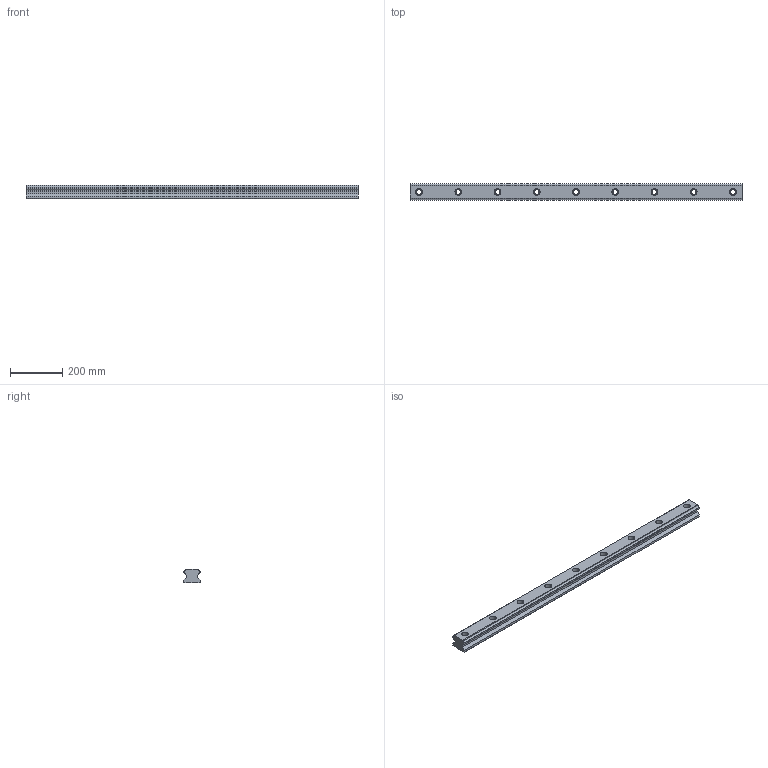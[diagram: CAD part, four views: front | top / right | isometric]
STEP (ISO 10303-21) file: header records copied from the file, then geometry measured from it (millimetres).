
FILE_DESCRIPTION(('starvars output'),'2;1');
FILE_NAME('cv20190626220502000039882.stp','22:05:02 2019/06/26',( 'Thomas Industrial Network Germany GmbH'),( 'Thomas Industrial Network Germany GmbH'),'unknown preprocess','ACIS' ,'unknown authorization');
FILE_SCHEMA(('CONFIG_CONTROL_DESIGN {UNKNOWN IMPLEMENTATION LEVEL}'));
Length unit declared in the file: millimetre
Products named in the file (1): PRODUCT_ID_1
Bounding box: 1270 x 63 x 53 mm (x, y, z)
Volume: 3438872.7 mm3; surface area: 339755.5 mm2
Topology: 1 solids, 1 shells, 79 faces, 204 edges, 136 vertices
Faces by surface type: cylinder 40, plane 39
Entity records: 2289 total; most frequent: ORIENTED_EDGE 408, CARTESIAN_POINT 365, DIRECTION 334, EDGE_CURVE 204, VERTEX_POINT 136, VECTOR 124, LINE 124, EDGE_LOOP 106
